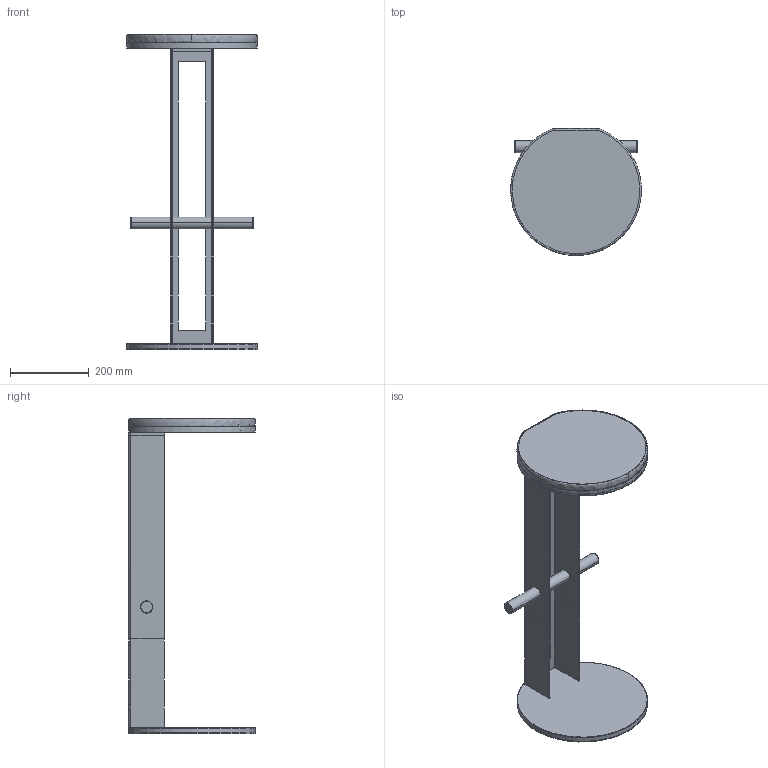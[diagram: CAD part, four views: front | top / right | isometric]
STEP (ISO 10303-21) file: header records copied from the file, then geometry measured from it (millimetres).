
FILE_DESCRIPTION(/* description */ (''),/* implementation_level */ '2;1');
FILE_NAME(/* name */ '2AB6F2~5',/* time_stamp */ '2017-09-28T10:57:29+02:00',/* author */ (''),/* organization */ (''),/* preprocessor_version */ 'ST-DEVELOPER v15',/* originating_system */ '',/* authorisation */ '');
FILE_SCHEMA (('AUTOMOTIVE_DESIGN'));
Length unit declared in the file: millimetre
Products named in the file (1): Document
Bounding box: 331.42 x 321.58 x 799.02 mm (x, y, z)
Volume: 2391100.8 mm3; surface area: 943884.8 mm2
Topology: 5 solids, 6 shells, 507 faces, 1193 edges, 680 vertices
Faces by surface type: bspline 347, plane 160
Entity records: 20124 total; most frequent: CARTESIAN_POINT 13264, ORIENTED_EDGE 2326, EDGE_CURVE 1169, VERTEX_POINT 680, EDGE_LOOP 527, B_SPLINE_CURVE_WITH_KNOTS 518, ADVANCED_FACE 507, FACE_OUTER_BOUND 507
